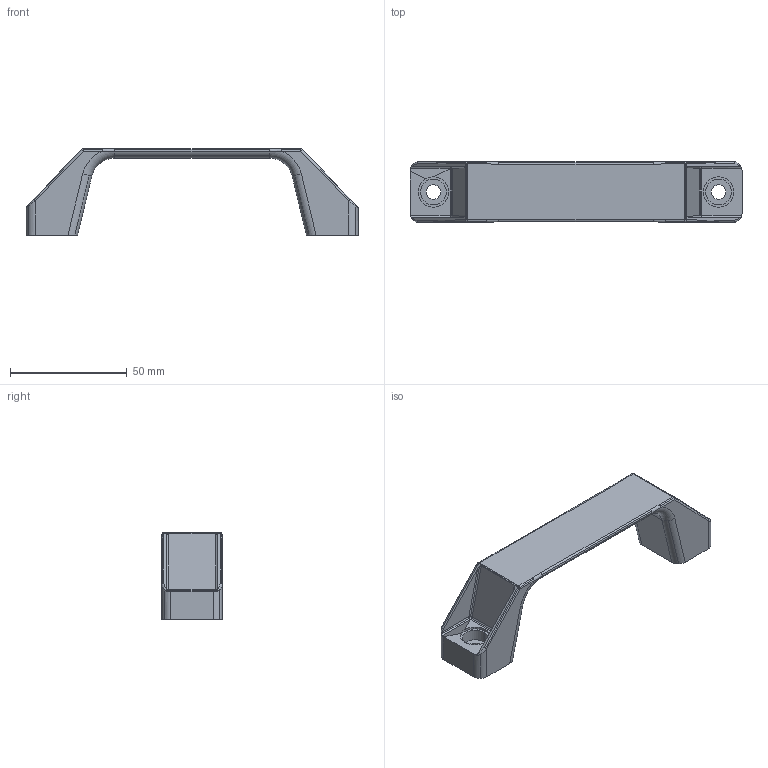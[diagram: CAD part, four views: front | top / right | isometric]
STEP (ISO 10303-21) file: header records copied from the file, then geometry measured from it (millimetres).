
FILE_DESCRIPTION((''),'2;1');
FILE_NAME('7039.stp','2023-10-10T10:21:54',(''),(''),'Mechanical Desktop 2006','Mechanical Desktop 2006',', , ');
FILE_SCHEMA(('CONFIG_CONTROL_DESIGN'));
Length unit declared in the file: millimetre
Products named in the file (2): 7039; TEIL2
Assembly tree (1 placements, depth 2):
  7039
    TEIL2
Bounding box: 142 x 26 x 37 mm (x, y, z)
Volume: 31815.5 mm3; surface area: 14166.5 mm2
Topology: 1 solids, 1 shells, 126 faces, 328 edges, 200 vertices
Faces by surface type: cylinder 80, plane 26, bspline 12, sphere 4, torus 4
Entity records: 4857 total; most frequent: CARTESIAN_POINT 1656, DIRECTION 688, ORIENTED_EDGE 640, EDGE_CURVE 320, AXIS2_PLACEMENT_3D 280, VERTEX_POINT 200, CIRCLE 136, EDGE_LOOP 134
